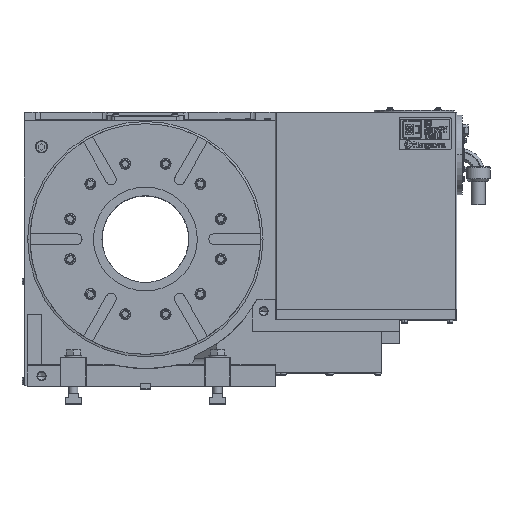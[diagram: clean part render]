
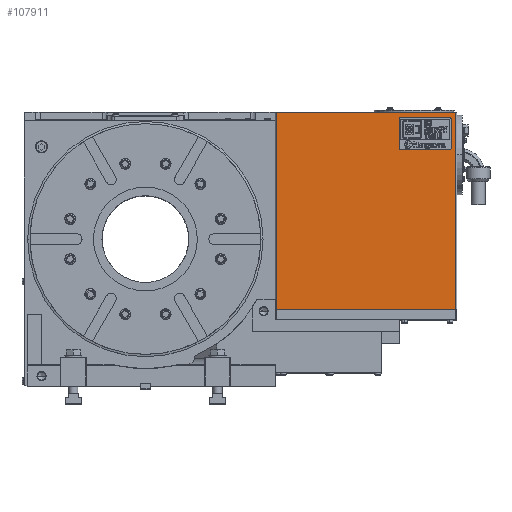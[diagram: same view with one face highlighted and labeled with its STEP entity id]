
A CAD part, top view. The second image highlights one B-rep face of the part: STEP entity #107911.
In plain terms, the highlighted planar face has unit normal (0, 0, 1).
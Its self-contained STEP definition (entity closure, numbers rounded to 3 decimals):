
#3743 = ORIENTED_EDGE ( 'NONE', *, *, #7474, .F. ) ;
#7474 = EDGE_CURVE ( 'NONE', #49138, #27669, #33447, .T. ) ;
#7648 = EDGE_CURVE ( 'NONE', #63989, #26315, #108212, .T. ) ;
#7850 = DIRECTION ( 'NONE',  ( 0., 0., -1. ) ) ;
#10532 = DIRECTION ( 'NONE',  ( 0., -1., 0. ) ) ;
#14296 = FACE_OUTER_BOUND ( 'NONE', #43543, .T. ) ;
#14857 = VECTOR ( 'NONE', #19581, 1000. ) ;
#15548 = CARTESIAN_POINT ( 'NONE',  ( 0., 0., 0. ) ) ;
#19581 = DIRECTION ( 'NONE',  ( 1., 0., 0. ) ) ;
#25895 = EDGE_CURVE ( 'NONE', #26315, #27669, #33868, .T. ) ;
#26315 = VERTEX_POINT ( 'NONE', #77466 ) ;
#27669 = VERTEX_POINT ( 'NONE', #94503 ) ;
#32482 = DIRECTION ( 'NONE',  ( 1., 0., 0. ) ) ;
#33447 = LINE ( 'NONE', #95228, #14857 ) ;
#33868 = LINE ( 'NONE', #63312, #98191 ) ;
#40193 = CARTESIAN_POINT ( 'NONE',  ( 2., 342., 0. ) ) ;
#41243 = VECTOR ( 'NONE', #32482, 1000. ) ;
#43543 = EDGE_LOOP ( 'NONE', ( #3743, #66185, #94814, #48178 ) ) ;
#48178 = ORIENTED_EDGE ( 'NONE', *, *, #25895, .T. ) ;
#49138 = VERTEX_POINT ( 'NONE', #40193 ) ;
#52467 = CARTESIAN_POINT ( 'NONE',  ( 2., 21., 0. ) ) ;
#55694 = EDGE_CURVE ( 'NONE', #49138, #63989, #60642, .T. ) ;
#60642 = LINE ( 'NONE', #52467, #80328 ) ;
#63312 = CARTESIAN_POINT ( 'NONE',  ( 313., 21., 0. ) ) ;
#63775 = CARTESIAN_POINT ( 'NONE',  ( 2., 0., 0. ) ) ;
#63989 = VERTEX_POINT ( 'NONE', #63775 ) ;
#66185 = ORIENTED_EDGE ( 'NONE', *, *, #55694, .T. ) ;
#66587 = DIRECTION ( 'NONE',  ( -1., 0., 0. ) ) ;
#71711 = DIRECTION ( 'NONE',  ( 0., 1., 0. ) ) ;
#77466 = CARTESIAN_POINT ( 'NONE',  ( 313., 0., 0. ) ) ;
#80328 = VECTOR ( 'NONE', #10532, 1000. ) ;
#88138 = AXIS2_PLACEMENT_3D ( 'NONE', #108409, #7850, #66587 ) ;
#94503 = CARTESIAN_POINT ( 'NONE',  ( 313., 342., 0. ) ) ;
#94814 = ORIENTED_EDGE ( 'NONE', *, *, #7648, .T. ) ;
#95228 = CARTESIAN_POINT ( 'NONE',  ( 0., 342., 0. ) ) ;
#98191 = VECTOR ( 'NONE', #71711, 1000. ) ;
#99954 = PLANE ( 'NONE',  #88138 ) ;
#107911 = ADVANCED_FACE ( 'NONE', ( #14296 ), #99954, .F. ) ;
#108212 = LINE ( 'NONE', #15548, #41243 ) ;
#108409 = CARTESIAN_POINT ( 'NONE',  ( 0., 21., 0. ) ) ;
